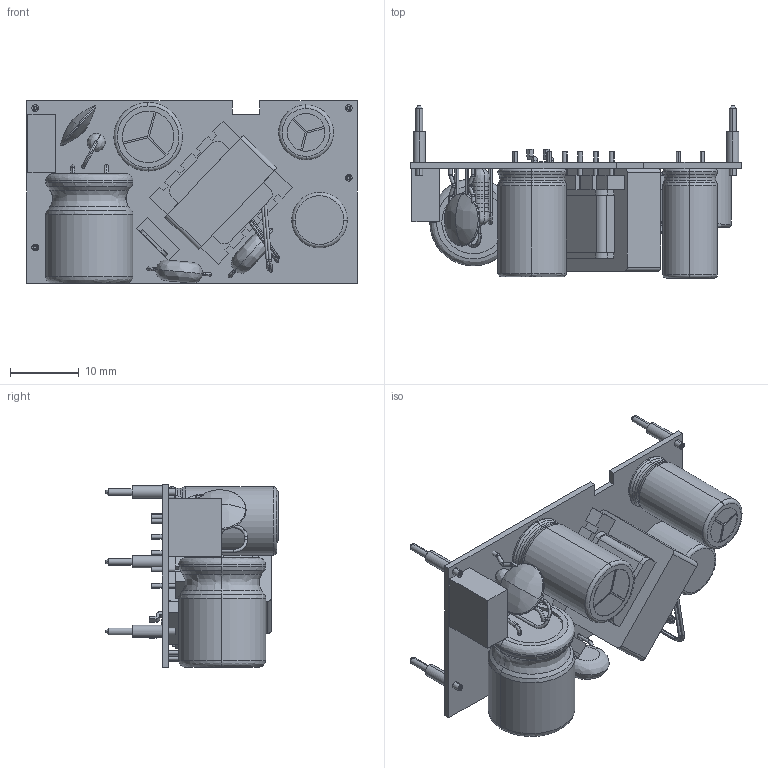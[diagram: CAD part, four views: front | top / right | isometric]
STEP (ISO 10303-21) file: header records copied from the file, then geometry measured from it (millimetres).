
FILE_DESCRIPTION (( 'STEP AP214' ), '1' );
FILE_NAME ('VCE10-P.STEP', '2019-06-14T05:02:33', ( '' ), ( '' ), 'SwSTEP 2.0', 'SolidWorks 2017', '' );
FILE_SCHEMA (( 'AUTOMOTIVE_DESIGN' ));
Length unit declared in the file: millimetre
Products named in the file (1): VCE10-P
Bounding box: 48.26 x 25.1 x 26.67 mm (x, y, z)
Volume: 8583.8 mm3; surface area: 7740.1 mm2
Topology: 19 solids, 19 shells, 549 faces, 1301 edges, 824 vertices
Faces by surface type: plane 226, cylinder 172, bspline 139, cone 12
Entity records: 24856 total; most frequent: CARTESIAN_POINT 6184, ORIENTED_EDGE 2602, DIRECTION 2594, EDGE_CURVE 1301, AXIS2_PLACEMENT_3D 982, VERTEX_POINT 824, VECTOR 630, LINE 630
